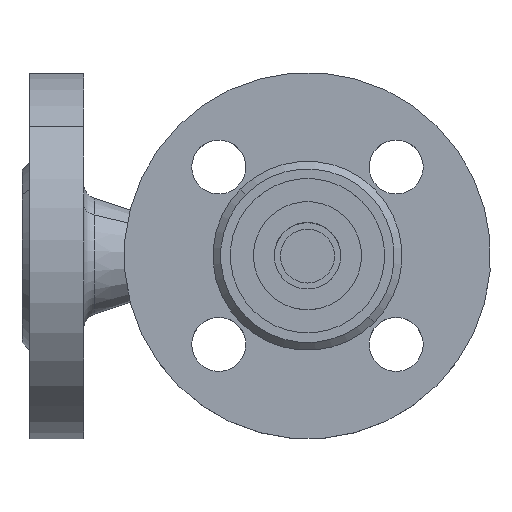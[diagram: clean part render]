
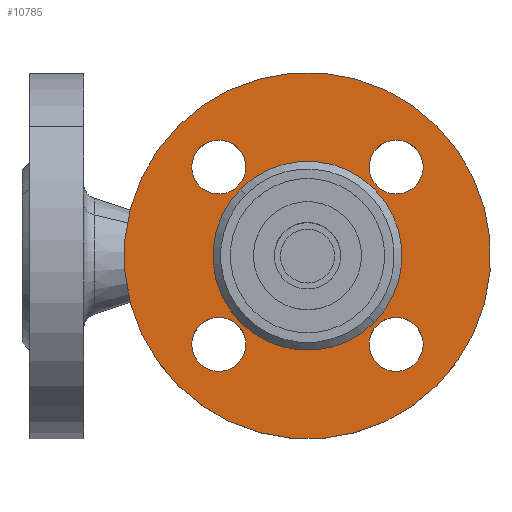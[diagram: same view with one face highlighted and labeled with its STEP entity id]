
A CAD part, top view. The second image highlights one B-rep face of the part: STEP entity #10785.
In plain terms, the highlighted planar face has unit normal (0, 0, 1) as drawn and (0, -1, 0) by its records, which use the part's own axes.
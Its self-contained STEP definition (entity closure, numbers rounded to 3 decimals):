
#259 = CIRCLE ( 'NONE', #260, 24.5 ) ;
#260 = AXIS2_PLACEMENT_3D ( 'NONE', #261, #262, #263 ) ;
#261 = CARTESIAN_POINT ( 'NONE',  ( 0., 2., 0. ) ) ;
#262 = DIRECTION ( 'NONE',  ( 0., 1., 0. ) ) ;
#263 = DIRECTION ( 'NONE',  ( -1., 0., 0. ) ) ;
#382 = CARTESIAN_POINT ( 'NONE',  ( -39.5, 2., 0. ) ) ;
#533 = CARTESIAN_POINT ( 'NONE',  ( -25.5, 2., 0. ) ) ;
#691 = CIRCLE ( 'NONE', #692, 7. ) ;
#692 = AXIS2_PLACEMENT_3D ( 'NONE', #693, #694, #695 ) ;
#693 = CARTESIAN_POINT ( 'NONE',  ( -32.5, 2., 0. ) ) ;
#694 = DIRECTION ( 'NONE',  ( 0., 1., 0. ) ) ;
#695 = DIRECTION ( 'NONE',  ( -1., 0., 0. ) ) ;
#905 = VERTEX_POINT ( 'NONE', #13056 ) ;
#1016 = CARTESIAN_POINT ( 'NONE',  ( 47.5, 2., 0. ) ) ;
#1121 = VERTEX_POINT ( 'NONE', #13201 ) ;
#1146 = CIRCLE ( 'NONE', #1147, 7. ) ;
#1147 = AXIS2_PLACEMENT_3D ( 'NONE', #1148, #1149, #1150 ) ;
#1148 = CARTESIAN_POINT ( 'NONE',  ( -32.5, 2., 0. ) ) ;
#1149 = DIRECTION ( 'NONE',  ( 0., 1., 0. ) ) ;
#1150 = DIRECTION ( 'NONE',  ( -1., 0., 0. ) ) ;
#1221 = CARTESIAN_POINT ( 'NONE',  ( -47.5, 2., 0. ) ) ;
#1347 = EDGE_CURVE ( 'NONE', #1121, #905, #13496, .T. ) ;
#1354 = CIRCLE ( 'NONE', #1355, 47.5 ) ;
#1355 = AXIS2_PLACEMENT_3D ( 'NONE', #1356, #1357, #1358 ) ;
#1356 = CARTESIAN_POINT ( 'NONE',  ( 0., 2., 0. ) ) ;
#1357 = DIRECTION ( 'NONE',  ( 0., 1., 0. ) ) ;
#1358 = DIRECTION ( 'NONE',  ( -1., 0., 0. ) ) ;
#1584 = EDGE_CURVE ( 'NONE', #6408, #8452, #259, .T. ) ;
#3499 = ORIENTED_EDGE ( 'NONE', *, *, #1584, .T. ) ;
#4217 = CIRCLE ( 'NONE', #4218, 24.5 ) ;
#4218 = AXIS2_PLACEMENT_3D ( 'NONE', #4219, #4220, #4221 ) ;
#4219 = CARTESIAN_POINT ( 'NONE',  ( 0., 2., 0. ) ) ;
#4220 = DIRECTION ( 'NONE',  ( 0., 1., 0. ) ) ;
#4221 = DIRECTION ( 'NONE',  ( -1., 0., 0. ) ) ;
#4532 = CIRCLE ( 'NONE', #4533, 7. ) ;
#4533 = AXIS2_PLACEMENT_3D ( 'NONE', #4534, #4535, #4536 ) ;
#4534 = CARTESIAN_POINT ( 'NONE',  ( 0., 2., -32.5 ) ) ;
#4535 = DIRECTION ( 'NONE',  ( 0., 1., 0. ) ) ;
#4536 = DIRECTION ( 'NONE',  ( -1., 0., 0. ) ) ;
#4669 = CARTESIAN_POINT ( 'NONE',  ( 25.5, 2., 0. ) ) ;
#4721 = EDGE_CURVE ( 'NONE', #10678, #10700, #5509, .T. ) ;
#4887 = ORIENTED_EDGE ( 'NONE', *, *, #4721, .T. ) ;
#5252 = CARTESIAN_POINT ( 'NONE',  ( -7., 2., 32.5 ) ) ;
#5337 = CARTESIAN_POINT ( 'NONE',  ( 39.5, 2., 0. ) ) ;
#5410 = EDGE_LOOP ( 'NONE', ( #4887, #10351 ) ) ;
#5472 = CARTESIAN_POINT ( 'NONE',  ( 7., 2., 32.5 ) ) ;
#5509 = CIRCLE ( 'NONE', #5510, 7. ) ;
#5510 = AXIS2_PLACEMENT_3D ( 'NONE', #5511, #5512, #5513 ) ;
#5511 = CARTESIAN_POINT ( 'NONE',  ( 0., 2., 32.5 ) ) ;
#5512 = DIRECTION ( 'NONE',  ( 0., 1., 0. ) ) ;
#5513 = DIRECTION ( 'NONE',  ( -1., 0., 0. ) ) ;
#5579 = CIRCLE ( 'NONE', #5580, 7. ) ;
#5580 = AXIS2_PLACEMENT_3D ( 'NONE', #5581, #5582, #5583 ) ;
#5581 = CARTESIAN_POINT ( 'NONE',  ( 32.5, 2., 0. ) ) ;
#5582 = DIRECTION ( 'NONE',  ( 0., 1., 0. ) ) ;
#5583 = DIRECTION ( 'NONE',  ( -1., 0., 0. ) ) ;
#5642 = ORIENTED_EDGE ( 'NONE', *, *, #10393, .T. ) ;
#5675 = CIRCLE ( 'NONE', #5676, 7. ) ;
#5676 = AXIS2_PLACEMENT_3D ( 'NONE', #5677, #5678, #5680 ) ;
#5677 = CARTESIAN_POINT ( 'NONE',  ( 0., 2., 32.5 ) ) ;
#5678 = DIRECTION ( 'NONE',  ( 0., 1., 0. ) ) ;
#5680 = DIRECTION ( 'NONE',  ( -1., 0., 0. ) ) ;
#6408 = VERTEX_POINT ( 'NONE', #7434 ) ;
#6572 = FACE_BOUND ( 'NONE', #10757, .T. ) ;
#6574 = FACE_BOUND ( 'NONE', #10563, .T. ) ;
#6575 = FACE_BOUND ( 'NONE', #5410, .T. ) ;
#6576 = FACE_BOUND ( 'NONE', #10313, .T. ) ;
#6577 = FACE_OUTER_BOUND ( 'NONE', #9182, .T. ) ;
#6578 = FACE_BOUND ( 'NONE', #7921, .T. ) ;
#6579 = PLANE ( 'NONE',  #6580 ) ;
#6580 = AXIS2_PLACEMENT_3D ( 'NONE', #6581, #6582, #6583 ) ;
#6581 = CARTESIAN_POINT ( 'NONE',  ( 24.5, 2., 0. ) ) ;
#6582 = DIRECTION ( 'NONE',  ( 0., 1., 0. ) ) ;
#6583 = DIRECTION ( 'NONE',  ( -1., 0., 0. ) ) ;
#7434 = CARTESIAN_POINT ( 'NONE',  ( 24.5, 2., 0. ) ) ;
#7490 = CIRCLE ( 'NONE', #7491, 47.5 ) ;
#7491 = AXIS2_PLACEMENT_3D ( 'NONE', #7492, #7493, #7494 ) ;
#7492 = CARTESIAN_POINT ( 'NONE',  ( 0., 2., 0. ) ) ;
#7493 = DIRECTION ( 'NONE',  ( 0., 1., 0. ) ) ;
#7494 = DIRECTION ( 'NONE',  ( -1., 0., 0. ) ) ;
#7572 = ORIENTED_EDGE ( 'NONE', *, *, #8674, .T. ) ;
#7921 = EDGE_LOOP ( 'NONE', ( #7572, #3499 ) ) ;
#8155 = ORIENTED_EDGE ( 'NONE', *, *, #10968, .F. ) ;
#8452 = VERTEX_POINT ( 'NONE', #9300 ) ;
#8674 = EDGE_CURVE ( 'NONE', #8452, #6408, #4217, .T. ) ;
#8675 = ORIENTED_EDGE ( 'NONE', *, *, #10484, .F. ) ;
#9182 = EDGE_LOOP ( 'NONE', ( #8675, #8155 ) ) ;
#9300 = CARTESIAN_POINT ( 'NONE',  ( -24.5, 2., 0. ) ) ;
#9417 = ORIENTED_EDGE ( 'NONE', *, *, #10714, .T. ) ;
#9937 = EDGE_CURVE ( 'NONE', #10661, #10688, #12777, .T. ) ;
#10230 = ORIENTED_EDGE ( 'NONE', *, *, #9937, .T. ) ;
#10313 = EDGE_LOOP ( 'NONE', ( #10230, #9417 ) ) ;
#10346 = VERTEX_POINT ( 'NONE', #382 ) ;
#10351 = ORIENTED_EDGE ( 'NONE', *, *, #10729, .T. ) ;
#10368 = VERTEX_POINT ( 'NONE', #533 ) ;
#10393 = EDGE_CURVE ( 'NONE', #10368, #10346, #691, .T. ) ;
#10427 = VERTEX_POINT ( 'NONE', #1016 ) ;
#10441 = EDGE_CURVE ( 'NONE', #10346, #10368, #1146, .T. ) ;
#10454 = VERTEX_POINT ( 'NONE', #1221 ) ;
#10484 = EDGE_CURVE ( 'NONE', #10454, #10427, #1354, .T. ) ;
#10505 = ORIENTED_EDGE ( 'NONE', *, *, #10441, .T. ) ;
#10563 = EDGE_LOOP ( 'NONE', ( #10505, #5642 ) ) ;
#10589 = ORIENTED_EDGE ( 'NONE', *, *, #1347, .T. ) ;
#10650 = EDGE_CURVE ( 'NONE', #905, #1121, #4532, .T. ) ;
#10661 = VERTEX_POINT ( 'NONE', #4669 ) ;
#10678 = VERTEX_POINT ( 'NONE', #5252 ) ;
#10688 = VERTEX_POINT ( 'NONE', #5337 ) ;
#10696 = ORIENTED_EDGE ( 'NONE', *, *, #10650, .T. ) ;
#10700 = VERTEX_POINT ( 'NONE', #5472 ) ;
#10714 = EDGE_CURVE ( 'NONE', #10688, #10661, #5579, .T. ) ;
#10729 = EDGE_CURVE ( 'NONE', #10700, #10678, #5675, .T. ) ;
#10757 = EDGE_LOOP ( 'NONE', ( #10696, #10589 ) ) ;
#10785 = ADVANCED_FACE ( 'NONE', ( #6572, #6574, #6575, #6576, #6577, #6578 ), #6579, .F. ) ;
#10968 = EDGE_CURVE ( 'NONE', #10427, #10454, #7490, .T. ) ;
#12777 = CIRCLE ( 'NONE', #12778, 7. ) ;
#12778 = AXIS2_PLACEMENT_3D ( 'NONE', #12779, #12780, #12781 ) ;
#12779 = CARTESIAN_POINT ( 'NONE',  ( 32.5, 2., 0. ) ) ;
#12780 = DIRECTION ( 'NONE',  ( 0., 1., 0. ) ) ;
#12781 = DIRECTION ( 'NONE',  ( -1., 0., 0. ) ) ;
#13056 = CARTESIAN_POINT ( 'NONE',  ( -7., 2., -32.5 ) ) ;
#13201 = CARTESIAN_POINT ( 'NONE',  ( 7., 2., -32.5 ) ) ;
#13496 = CIRCLE ( 'NONE', #13497, 7. ) ;
#13497 = AXIS2_PLACEMENT_3D ( 'NONE', #13498, #13499, #13500 ) ;
#13498 = CARTESIAN_POINT ( 'NONE',  ( 0., 2., -32.5 ) ) ;
#13499 = DIRECTION ( 'NONE',  ( 0., 1., 0. ) ) ;
#13500 = DIRECTION ( 'NONE',  ( -1., 0., 0. ) ) ;
